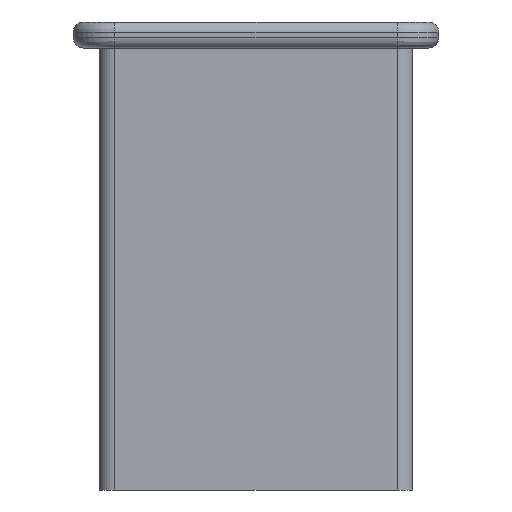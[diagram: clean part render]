
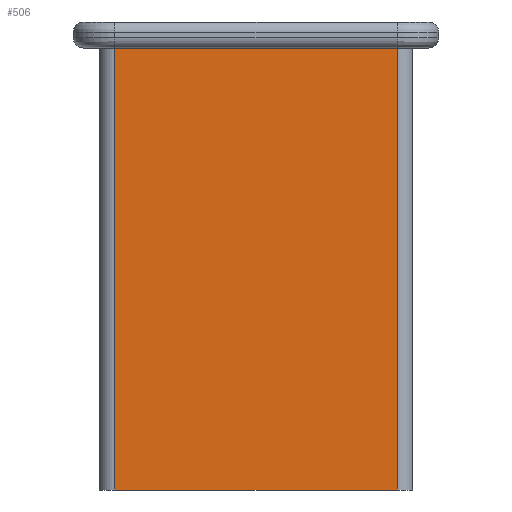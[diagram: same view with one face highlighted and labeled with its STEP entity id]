
A CAD part, left-side view. The second image highlights one B-rep face of the part: STEP entity #506.
In plain terms, the highlighted planar face has unit normal (-1, 0, 0).
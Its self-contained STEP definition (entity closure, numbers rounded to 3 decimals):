
#506=ADVANCED_FACE('',(#1054),#8694,.T.);
#1054=FACE_OUTER_BOUND('',#1663,.T.);
#1663=EDGE_LOOP('',(#3542,#3543,#3544,#3545));
#3542=ORIENTED_EDGE('',*,*,#5217,.T.);
#3543=ORIENTED_EDGE('',*,*,#5218,.T.);
#3544=ORIENTED_EDGE('',*,*,#5219,.F.);
#3545=ORIENTED_EDGE('',*,*,#5215,.F.);
#5215=EDGE_CURVE('',#7948,#7949,#5776,.T.);
#5217=EDGE_CURVE('',#7948,#7950,#5777,.T.);
#5218=EDGE_CURVE('',#7950,#7951,#5778,.T.);
#5219=EDGE_CURVE('',#7949,#7951,#5779,.T.);
#5776=(
BOUNDED_CURVE()
B_SPLINE_CURVE(1,(#15569,#15570),.UNSPECIFIED.,.F.,.F.)
B_SPLINE_CURVE_WITH_KNOTS((2,2),(0.,423.),.UNSPECIFIED.)
CURVE()
GEOMETRIC_REPRESENTATION_ITEM()
RATIONAL_B_SPLINE_CURVE((1.,1.))
REPRESENTATION_ITEM('')
);
#5777=(
BOUNDED_CURVE()
B_SPLINE_CURVE(2,(#15574,#15575,#15576),.UNSPECIFIED.,.F.,.F.)
B_SPLINE_CURVE_WITH_KNOTS((3,3),(1955.686,2275.686),
 .UNSPECIFIED.)
CURVE()
GEOMETRIC_REPRESENTATION_ITEM()
RATIONAL_B_SPLINE_CURVE((1.,1.,1.))
REPRESENTATION_ITEM('')
);
#5778=(
BOUNDED_CURVE()
B_SPLINE_CURVE(1,(#15577,#15578),.UNSPECIFIED.,.F.,.F.)
B_SPLINE_CURVE_WITH_KNOTS((2,2),(0.,423.),.UNSPECIFIED.)
CURVE()
GEOMETRIC_REPRESENTATION_ITEM()
RATIONAL_B_SPLINE_CURVE((1.,1.))
REPRESENTATION_ITEM('')
);
#5779=(
BOUNDED_CURVE()
B_SPLINE_CURVE(2,(#15579,#15580,#15581),.UNSPECIFIED.,.F.,.F.)
B_SPLINE_CURVE_WITH_KNOTS((3,3),(1955.686,2275.686),
 .UNSPECIFIED.)
CURVE()
GEOMETRIC_REPRESENTATION_ITEM()
RATIONAL_B_SPLINE_CURVE((1.,1.,1.))
REPRESENTATION_ITEM('')
);
#7948=VERTEX_POINT('',#15468);
#7949=VERTEX_POINT('',#15469);
#7950=VERTEX_POINT('',#15470);
#7951=VERTEX_POINT('',#15471);
#8694=PLANE('',#9414);
#9414=AXIS2_PLACEMENT_3D('',#15144,#10649,$);
#10649=DIRECTION('',(-1.,0.,0.));
#15144=CARTESIAN_POINT('',(-667.5,985.326,2.));
#15468=CARTESIAN_POINT('',(-667.5,985.326,2.));
#15469=CARTESIAN_POINT('',(-667.5,985.326,425.));
#15470=CARTESIAN_POINT('',(-667.5,715.326,2.));
#15471=CARTESIAN_POINT('',(-667.5,715.326,425.));
#15569=CARTESIAN_POINT('',(-667.5,985.326,2.));
#15570=CARTESIAN_POINT('',(-667.5,985.326,425.));
#15574=CARTESIAN_POINT('',(-667.5,985.326,2.));
#15575=CARTESIAN_POINT('',(-667.5,850.326,2.));
#15576=CARTESIAN_POINT('',(-667.5,715.326,2.));
#15577=CARTESIAN_POINT('',(-667.5,715.326,2.));
#15578=CARTESIAN_POINT('',(-667.5,715.326,425.));
#15579=CARTESIAN_POINT('',(-667.5,985.326,425.));
#15580=CARTESIAN_POINT('',(-667.5,850.326,425.));
#15581=CARTESIAN_POINT('',(-667.5,715.326,425.));
